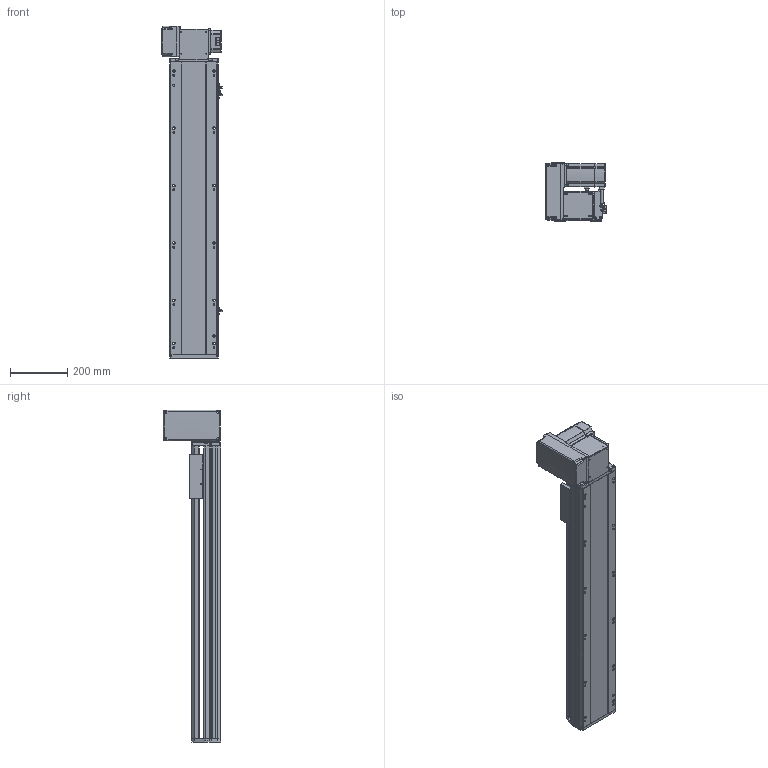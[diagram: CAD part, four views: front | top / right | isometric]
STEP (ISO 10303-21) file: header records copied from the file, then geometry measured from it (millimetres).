
FILE_DESCRIPTION (( 'STEP AP214' ), '1' );
FILE_NAME ('RTB17S-XX-750-LW-M75-C4.STEP', '2025-12-12T01:02:31', ( '' ), ( '' ), 'SwSTEP 2.0', 'SolidWorks 2018', '' );
FILE_SCHEMA (( 'AUTOMOTIVE_DESIGN' ));
Length unit declared in the file: millimetre
Products named in the file (15): RTB17S-LW-々湍釱蚾饜-750W^RTB17S-XX-XX-LW-M75-C4; 750W萇儂^RTB17S-XX-XX-LW-M75-C4; RTB17S-賑釱^RTB17S-XX-XX-LW-M75-C4; RTB17S-L-007奻裔^RTB17S-XX-XX-LW-M75-C4; RTB17S-L-004-賑釱^RTB17S-賑釱_RTB17S-XX-XX-LW-M75-C4; RTB17-R-011菁釱^RTB17S-XX-XX-LW-M75-C4; RTB17S-L-014-T20-P75--々湍釱^RTB17S-LW-々湍釱蚾饜-750W_RTB17S-XX-XX-LW-M75-C4; RTB17S-XX-750-LW-M75-C4; RTH13-BL-012覜茼え俋离^RTB17S-賑釱_RTB17S-XX-XX-LW-M75-C4; RTB22S-GY-005P^RTB17S-LW-々湍釱蚾饜-750W_RTB17S-XX-XX-LW-M75-C4; EE672^RTB17S-XX-XX-LW-M75-C4; RTB17S-L-001-耜醱啣^RTB17S-XX-XX-LW-M75-C4; RTB22S-GY-018P^RTB17S-LW-々湍釱蚾饜-750W_RTB17S-XX-XX-LW-M75-C4; RTB22S-GY-008-M75--萇儂啣^RTB17S-LW-々湍釱蚾饜-750W_RTB17S-XX-XX-LW-M75-C4; RTB22S-GY-017P^RTB17S-LW-々湍釱蚾饜-750W_RTB17S-XX-XX-LW-M75-C4
Assembly tree (17 placements, depth 3):
  RTB17S-XX-750-LW-M75-C4
    RTB17-R-011菁釱^RTB17S-XX-XX-LW-M75-C4
    EE672^RTB17S-XX-XX-LW-M75-C4  x3
    RTB17S-L-001-耜醱啣^RTB17S-XX-XX-LW-M75-C4
    RTB17S-賑釱^RTB17S-XX-XX-LW-M75-C4
      RTB17S-L-004-賑釱^RTB17S-賑釱_RTB17S-XX-XX-LW-M75-C4
      RTH13-BL-012覜茼え俋离^RTB17S-賑釱_RTB17S-XX-XX-LW-M75-C4
    RTB17S-L-007奻裔^RTB17S-XX-XX-LW-M75-C4
    750W萇儂^RTB17S-XX-XX-LW-M75-C4
    RTB17S-LW-々湍釱蚾饜-750W^RTB17S-XX-XX-LW-M75-C4
      RTB17S-L-014-T20-P75--々湍釱^RTB17S-LW-々湍釱蚾饜-750W_RTB17S-XX-XX-LW-M75-C4
      RTB22S-GY-005P^RTB17S-LW-々湍釱蚾饜-750W_RTB17S-XX-XX-LW-M75-C4
      RTB22S-GY-017P^RTB17S-LW-々湍釱蚾饜-750W_RTB17S-XX-XX-LW-M75-C4  x2
      RTB22S-GY-008-M75--萇儂啣^RTB17S-LW-々湍釱蚾饜-750W_RTB17S-XX-XX-LW-M75-C4
      RTB22S-GY-018P^RTB17S-LW-々湍釱蚾饜-750W_RTB17S-XX-XX-LW-M75-C4
Bounding box: 210.4 x 201.5 x 1157.5 mm (x, y, z)
Volume: 10638349.4 mm3; surface area: 1763836.8 mm2
Topology: 17 solids, 17 shells, 2073 faces, 5728 edges, 3698 vertices
Faces by surface type: plane 968, cylinder 689, bspline 294, cone 110, sphere 8, torus 4
Entity records: 57334 total; most frequent: CARTESIAN_POINT 16792, ORIENTED_EDGE 8300, DIRECTION 7772, EDGE_CURVE 4150, AXIS2_PLACEMENT_3D 2718, VERTEX_POINT 2702, VECTOR 2336, LINE 2336
